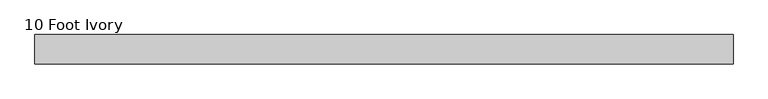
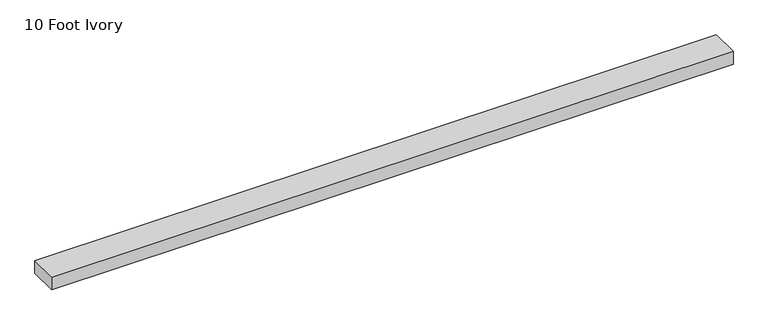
"""IFC4 building model written with IfcOpenShell, lengths in millimetres: proxy geometry, Raceway-2400_Series-Wiremold-Steel : 10 Foot Ivory."""

from ifc_helpers import new_model, si_unit, origin, origin_with_axes, place, context, project, spatial, polyline, outline, extrude, source, transform, mapped, element, save


def proxy_10_foot_ivory_969471e2(model_context):
    return source(origin(), model_context, "Body", "SweptSolid", [
        extrude(outline(polyline([(1143.0, 24.2062), (1143.0, -24.2062), (0.0, -24.2062), (0.0, 24.2062), (1143.0, 24.2062)])), origin_with_axes(), (0.0, 0.0, 1.0), 22.225),
    ])


if __name__ == "__main__":
    model = new_model("IFC4")
    model_context = context("Model", 3, world=origin())
    ifc_project = project(units=[si_unit("LENGTHUNIT", "METRE", prefix="MILLI")], contexts=[model_context])
    site = spatial("IfcSite", under=ifc_project)
    building = spatial("IfcBuilding", under=site)
    placement = place(None, origin())
    proxy_10_foot_ivory_shape = proxy_10_foot_ivory_969471e2(model_context)
    element("IfcBuildingElementProxy", 1, Name="Raceway-2400_Series-Wiremold-Steel : 10 Foot Ivory", ObjectType="Raceway-2400_Series-Wiremold-Steel : 10 Foot Ivory", at=placement, inside=building, context=model_context, shape_type="MappedRepresentation", body=[
        mapped(proxy_10_foot_ivory_shape, transform((0.0, 0.0, 0.0), x_axis=(1.0, 0.0, 0.0), y_axis=(0.0, 1.0, 0.0), z_axis=(0.0, 0.0, 1.0))),
    ])
    save(model, "model.ifc")
